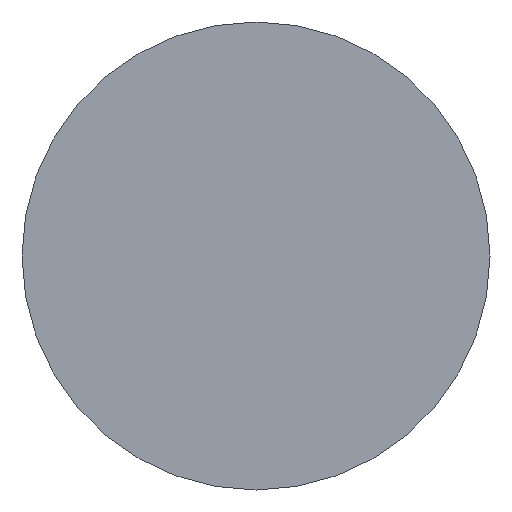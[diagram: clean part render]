
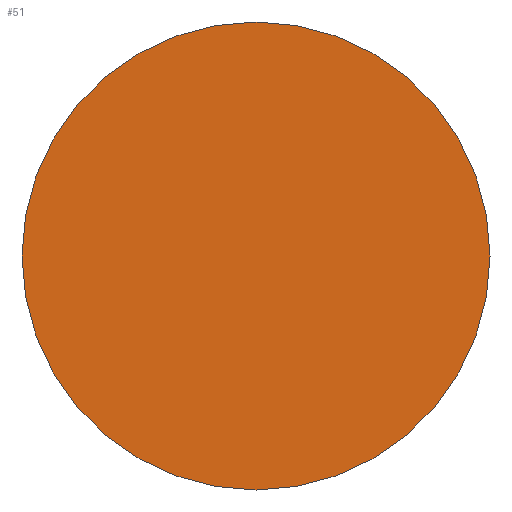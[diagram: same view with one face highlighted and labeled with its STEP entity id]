
A CAD part, front view. The second image highlights one B-rep face of the part: STEP entity #51.
In plain terms, the highlighted planar face has unit normal (0, -1, 0).
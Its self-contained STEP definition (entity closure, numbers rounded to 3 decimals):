
#16=PLANE('',#78);
#19=FACE_OUTER_BOUND('',#22,.T.);
#22=EDGE_LOOP('',(#46,#47));
#27=CIRCLE('',#75,6.35);
#28=CIRCLE('',#76,6.35);
#31=VERTEX_POINT('',#102);
#32=VERTEX_POINT('',#104);
#36=EDGE_CURVE('',#31,#32,#27,.T.);
#37=EDGE_CURVE('',#32,#31,#28,.T.);
#46=ORIENTED_EDGE('',*,*,#37,.F.);
#47=ORIENTED_EDGE('',*,*,#36,.F.);
#51=ADVANCED_FACE('',(#19),#16,.F.);
#75=AXIS2_PLACEMENT_3D('',#105,#88,#89);
#76=AXIS2_PLACEMENT_3D('',#106,#90,#91);
#78=AXIS2_PLACEMENT_3D('',#108,#94,#95);
#88=DIRECTION('center_axis',(0.,1.,0.));
#89=DIRECTION('ref_axis',(-1.,0.,0.));
#90=DIRECTION('center_axis',(0.,1.,0.));
#91=DIRECTION('ref_axis',(-1.,0.,0.));
#94=DIRECTION('center_axis',(0.,1.,0.));
#95=DIRECTION('ref_axis',(0.,0.,1.));
#102=CARTESIAN_POINT('',(6.35,0.,0.));
#104=CARTESIAN_POINT('',(-6.35,0.,0.));
#105=CARTESIAN_POINT('Origin',(0.,0.,0.));
#106=CARTESIAN_POINT('Origin',(0.,0.,0.));
#108=CARTESIAN_POINT('Origin',(0.,0.,0.));
